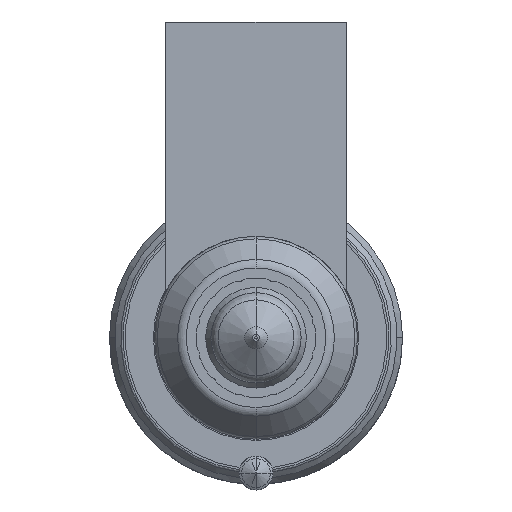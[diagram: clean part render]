
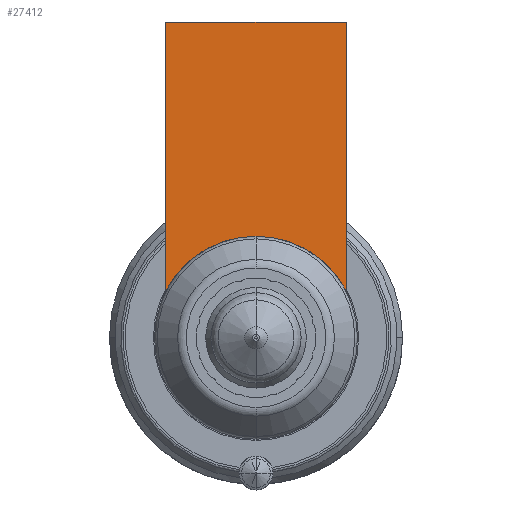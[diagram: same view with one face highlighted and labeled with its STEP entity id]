
A CAD part, front view. The second image highlights one B-rep face of the part: STEP entity #27412.
In plain terms, the highlighted planar face has unit normal (0, -1, 0).
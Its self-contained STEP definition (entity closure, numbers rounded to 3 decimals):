
#26601=DIRECTION('',(1.,0.,0.));
#26602=VECTOR('',#26601,16.);
#26603=CARTESIAN_POINT('',(-8.,-54.,28.));
#26604=LINE('',#26603,#26602);
#26609=CARTESIAN_POINT('',(0.,-54.,0.));
#26610=DIRECTION('',(0.,-1.,0.));
#26611=DIRECTION('',(0.889,0.,0.458));
#26612=AXIS2_PLACEMENT_3D('',#26609,#26610,#26611);
#26617=CARTESIAN_POINT('',(0.,-54.,0.));
#26618=DIRECTION('',(0.,-1.,0.));
#26619=DIRECTION('',(0.,0.,1.));
#26620=AXIS2_PLACEMENT_3D('',#26617,#26618,#26619);
#26646=DIRECTION('',(0.,0.,-1.));
#26647=VECTOR('',#26646,23.877);
#26648=CARTESIAN_POINT('',(-8.,-54.,28.));
#26649=LINE('',#26648,#26647);
#27264=DIRECTION('',(0.,0.,-1.));
#27265=VECTOR('',#27264,23.877);
#27266=CARTESIAN_POINT('',(8.,-54.,28.));
#27267=LINE('',#27266,#27265);
#27317=CARTESIAN_POINT('',(-8.,-54.,28.));
#27318=VERTEX_POINT('',#27317);
#27323=CARTESIAN_POINT('',(8.,-54.,28.));
#27324=VERTEX_POINT('',#27323);
#27327=CARTESIAN_POINT('',(-8.,-54.,4.123));
#27328=VERTEX_POINT('',#27327);
#27331=CARTESIAN_POINT('',(8.,-54.,4.123));
#27332=VERTEX_POINT('',#27331);
#27393=CARTESIAN_POINT('',(0.,-54.,9.));
#27394=VERTEX_POINT('',#27393);
#27395=CARTESIAN_POINT('',(0.,-54.,9.));
#27396=DIRECTION('',(0.,1.,0.));
#27397=DIRECTION('',(0.,0.,-1.));
#27398=AXIS2_PLACEMENT_3D('',#27395,#27396,#27397);
#27399=PLANE('',#27398);
#27401=ORIENTED_EDGE('',*,*,#27400,.F.);
#27403=ORIENTED_EDGE('',*,*,#27402,.T.);
#27405=ORIENTED_EDGE('',*,*,#27404,.T.);
#27407=ORIENTED_EDGE('',*,*,#27406,.T.);
#27409=ORIENTED_EDGE('',*,*,#27408,.T.);
#27410=EDGE_LOOP('',(#27401,#27403,#27405,#27407,#27409));
#27411=FACE_OUTER_BOUND('',#27410,.F.);
#27412=ADVANCED_FACE('',(#27411),#27399,.F.);
#26613=CIRCLE('',#26612,9.);
#26621=CIRCLE('',#26620,9.);
#27400=EDGE_CURVE('',#27318,#27328,#26649,.T.);
#27402=EDGE_CURVE('',#27318,#27324,#26604,.T.);
#27404=EDGE_CURVE('',#27324,#27332,#27267,.T.);
#27406=EDGE_CURVE('',#27332,#27394,#26613,.T.);
#27408=EDGE_CURVE('',#27394,#27328,#26621,.T.);
